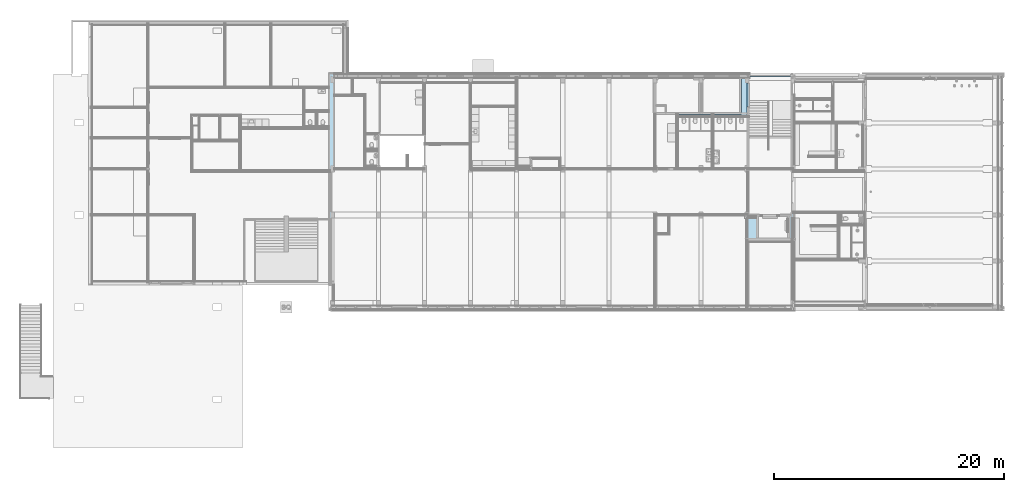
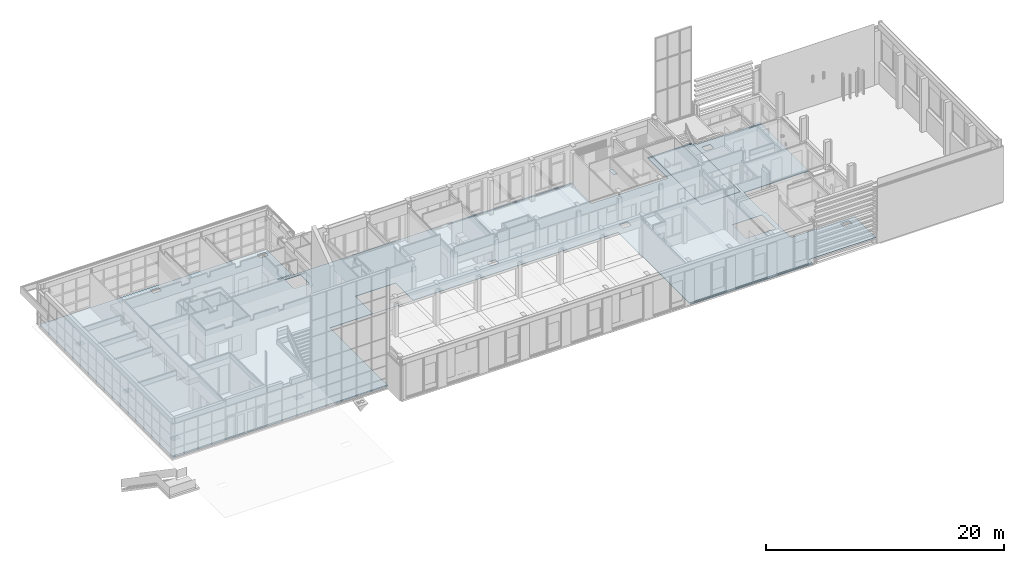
# One storey, part 15 of 109: 2 slabs, 9 openings.
"""IFC2X3 building model written with IfcOpenShell, lengths in millimetres."""

from ifc_helpers import new_model, entity, si_unit, converted_unit, derived_unit, money_unit, direction, frame, origin_with_axes, place, context, subcontext, project, spatial, faceted_brep, material, type_object, element, save


model = new_model("IFC2X3")

# Units and contexts
model_context = context("Model", 3, precision=0.01, world=origin_with_axes(), true_north=direction((0.0, 1.0)))
body_context = subcontext(model_context, "Body", "Model", "MODEL_VIEW")
ifc_project = project(units=[si_unit("LENGTHUNIT", "METRE", prefix="MILLI"), si_unit("AREAUNIT", "SQUARE_METRE"), si_unit("VOLUMEUNIT", "CUBIC_METRE"), converted_unit("PLANEANGLEUNIT", "DEGREE", entity("IfcPlaneAngleMeasure", 0.0174532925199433), si_unit("PLANEANGLEUNIT", "RADIAN"), dimensions=[0, 0, 0, 0, 0, 0, 0]), money_unit("EUR"), converted_unit("TIMEUNIT", "Year", entity("IfcTimeMeasure", 31557600.0), si_unit("TIMEUNIT", "SECOND"), dimensions=[0, 0, 1, 0, 0, 0, 0]), si_unit("MASSUNIT", "GRAM", prefix="KILO"), si_unit("THERMODYNAMICTEMPERATUREUNIT", "DEGREE_CELSIUS"), si_unit("LUMINOUSINTENSITYUNIT", "LUMEN"), si_unit("ENERGYUNIT", "JOULE", prefix="MEGA"), derived_unit("THERMALCONDUCTANCEUNIT", [(si_unit("POWERUNIT", "WATT"), 1), (si_unit("LENGTHUNIT", "METRE"), -1), (si_unit("THERMODYNAMICTEMPERATUREUNIT", "KELVIN"), -1)]), derived_unit("SPECIFICHEATCAPACITYUNIT", [(si_unit("ENERGYUNIT", "JOULE"), 1), (si_unit("MASSUNIT", "GRAM", prefix="KILO"), -1), (si_unit("THERMODYNAMICTEMPERATUREUNIT", "KELVIN"), -1)]), derived_unit("MASSDENSITYUNIT", [(si_unit("MASSUNIT", "GRAM", prefix="KILO"), 1), (si_unit("VOLUMEUNIT", "CUBIC_METRE"), -1)])], contexts=[model_context])

# Site, building, storey
site_placement = place(None, origin_with_axes())
site = spatial("IfcSite", under=ifc_project, at=site_placement, Name="<site naam>", CompositionType="ELEMENT")
building_placement = place(site_placement, origin_with_axes())
building = spatial("IfcBuilding", under=site, at=building_placement, Name="<Naam gebouw>", CompositionType="ELEMENT")
storey_placement = place(building_placement, origin_with_axes())
storey = spatial("IfcBuildingStorey", under=building, at=storey_placement, Name="00 Begane grond", CompositionType="ELEMENT", Elevation=0.0)

# Slab
ifc_material_1 = material(Name="beton")
slab_type_1 = type_object("IfcSlabType", Name="beton 30", PredefinedType="NOTDEFINED")
slab_1_placement = place(storey_placement, frame((48000.00000000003, 11961.00000002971, -30.0), z_axis=(0.0, 0.0, 1.0), x_axis=(1.0, 0.0, 0.0)))
element("IfcSlab", 1, at=slab_1_placement, inside=storey, type_object=slab_type_1, material=ifc_material_1, Name="23_Vloer_beton", PredefinedType="NOTDEFINED", context=body_context, shape_type="Brep", body=[
    faceted_brep([(3825.000000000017, 0.0, 30.0), (0.0, 0.0, 30.0), (0.0, 0.0, 0.0), (3825.000000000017, 0.0, 0.0), (3825.000000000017, 8103.999999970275, 30.0), (0.0, 8103.999999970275, 30.0), (0.0, 8103.999999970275, 0.0), (3825.000000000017, 8103.999999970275, 0.0)], [[[0, 1, 2, 3]], [[4, 5, 1, 0]], [[1, 5, 6, 2]], [[7, 3, 2, 6]], [[4, 0, 3, 7]], [[5, 4, 7, 6]]]),
])

# Slab, openings
ifc_material_2 = material(Name="zandcementdeklvoer")
slab_type_2 = type_object("IfcSlabType", Name="zandcementdeklvoer 50", PredefinedType="NOTDEFINED")
slab_2_placement = place(storey_placement, frame((-8976.46338968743, 2104.204757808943, 0.0), z_axis=(0.0, 0.0, 1.0), x_axis=(1.0, 0.0, 0.0)))
slab_2 = element("IfcSlab", 2, at=slab_2_placement, inside=storey, type_object=slab_type_2, material=ifc_material_2, Name="23_Vloer_zandcementdeklvoer", PredefinedType="NOTDEFINED", context=body_context, shape_type="Brep", body=[
    faceted_brep([(60801.46338968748, 18030.79524219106, -49.99999999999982), (53276.46338968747, 18030.79524219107, -49.99999999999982), (53276.46338968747, 17780.79524219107, -49.99999999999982), (53276.46338968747, 17295.79524219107, -49.99999999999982), (52676.46338968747, 17295.79524219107, -49.99999999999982), (52676.46338968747, 18030.79524219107, -49.99999999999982), (37151.46338968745, 18030.79524219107, -49.99999999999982), (37151.46338968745, 17945.79524219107, -49.99999999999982), (49276.46338968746, 17945.79524219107, -49.99999999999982), (49276.46338968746, 17295.79532653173, -49.99999999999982), (49151.46338968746, 17295.79532653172, -49.99999999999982), (49151.46338968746, 14870.74506497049, -49.99999999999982), (49151.46338968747, 14620.74510511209, -49.99999999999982), (56239.3477788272, 14620.74510374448, -49.99999999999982), (56489.3477788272, 14620.74510511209, -49.99999999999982), (56489.3477788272, 17945.79524219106, -49.99999999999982), (60801.46338968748, 17945.79524219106, -49.99999999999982), (60801.46338968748, 17895.80180449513, -49.99999999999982), (66091.46338968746, 17895.80180449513, -49.99999999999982), (66091.46338968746, 17630.79524219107, -49.99999999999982), (66091.46338968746, 17545.79524219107, -49.99999999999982), (67294.24623439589, 17545.79524219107, -49.99999999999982), (67294.24623439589, 9620.801804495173, -49.99999999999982), (60955.46338968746, 9620.801804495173, -49.99999999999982), (60955.46338968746, 6170.80180449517, -49.99999999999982), (61151.46338968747, 6170.80180449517, -49.99999999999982), (61151.46338968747, 5620.801804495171, -49.99999999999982), (61111.46338968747, 5620.801804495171, -49.99999999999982), (61111.46338968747, 1920.795242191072, -49.99999999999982), (67294.24623439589, 1920.795242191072, -49.99999999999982), (67294.24623439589, 1720.801804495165, -49.99999999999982), (67301.46338968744, 1720.801804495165, -49.99999999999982), (67301.46338968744, -1626.204757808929, -49.99999999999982), (60841.46338968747, -1626.204757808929, -49.99999999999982), (60841.46338968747, -2129.267312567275, -49.99999999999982), (48901.46338968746, -2133.799300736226, -49.99999999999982), (48901.46338968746, 9820.769999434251, -49.99999999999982), (20911.46338968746, 9820.769999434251, -49.99999999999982), (20911.46338968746, 155.7952421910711, -49.99999999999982), (0.0, 155.7952421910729, -49.99999999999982), (0.0, 22479.79436877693, -49.99999999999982), (22032.98553481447, 22479.79436899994, -49.99999999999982), (22032.98554914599, 18230.80180449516, -49.99999999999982), (20641.46338968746, 18230.80180449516, -49.99999999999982), (20641.46338968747, 18120.80180449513, -49.99999999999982), (60801.46338968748, 18120.80180449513, -49.99999999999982), (28976.44763511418, 9826.166431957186, -49.99999999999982), (28976.44764154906, 12760.82479693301, -49.99999999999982), (25071.46338968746, 12761.33731080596, -49.99999999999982), (25071.46338968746, 9826.166431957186, -49.99999999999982), (60676.46338968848, 6000.795240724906, -49.99999999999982), (60476.46338968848, 6000.795240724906, -49.99999999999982), (57776.46338968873, 6000.795240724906, -49.99999999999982), (57776.46338968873, 5800.795240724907, -49.99999999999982), (57776.46338968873, 3900.795240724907, -49.99999999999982), (57776.46338968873, 3700.795240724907, -49.99999999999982), (60676.46338968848, 3700.795240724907, -49.99999999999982), (60676.46338968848, 3900.795240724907, -49.99999999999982), (20951.46338968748, 22145.79524219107, -49.99999999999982), (20951.46338968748, 21645.79524219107, -49.99999999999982), (21701.46338968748, 21645.79524219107, -49.99999999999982), (21701.46338968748, 22145.79524219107, -49.99999999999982), (10601.46338968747, 22145.79524219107, -49.99999999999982), (10601.46338968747, 21645.79524219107, -49.99999999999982), (11351.46338968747, 21645.79524219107, -49.99999999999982), (11351.46338968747, 22145.79524219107, -49.99999999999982), (60801.46338968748, 18030.79524219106, 0.0), (53276.46338968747, 18030.79524219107, 0.0), (53276.46338968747, 17780.79524219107, 0.0), (53276.46338968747, 17295.79524219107, 0.0), (52676.46338968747, 17295.79524219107, 0.0), (52676.46338968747, 18030.79524219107, 0.0), (49526.46338968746, 18030.79524219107, 0.0), (49276.46338968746, 18030.79524219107, 0.0), (37151.46338968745, 18030.79524219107, 0.0), (52426.46338968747, 18030.79524219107, 0.0), (37151.46338968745, 17945.79524219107, 0.0), (49276.46338968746, 17945.79524219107, 0.0), (49276.46338968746, 17295.79532653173, 0.0), (49151.46338968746, 17295.79532653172, 0.0), (49151.46338968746, 14870.74506497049, 0.0), (49151.46338968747, 14620.74510511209, 0.0), (56239.3477788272, 14620.74510374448, 0.0), (56489.3477788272, 14620.74510511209, 0.0), (56489.3477788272, 17945.79524219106, 0.0), (60801.46338968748, 17945.79524219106, 0.0), (60801.46338968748, 17895.80180449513, 0.0), (66091.46338968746, 17895.80180449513, 0.0), (66091.46338968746, 17630.79524219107, 0.0), (66091.46338968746, 17545.79524219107, 0.0), (67294.24623439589, 17545.79524219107, 0.0), (67294.24623439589, 9620.801804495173, 0.0), (60955.46338968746, 9620.801804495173, 0.0), (60955.46338968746, 6170.80180449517, 0.0), (61151.46338968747, 6170.80180449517, 0.0), (61151.46338968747, 5620.801804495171, 0.0), (61111.46338968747, 5620.801804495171, 0.0), (61111.46338968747, 1920.795242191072, 0.0), (67294.24623439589, 1920.795242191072, 0.0), (67294.24623439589, 1720.801804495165, 0.0), (67301.46338968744, 1720.801804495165, 0.0), (67301.46338968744, -1626.204757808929, 0.0), (60841.46338968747, -1626.204757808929, 0.0), (60841.46338968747, -2129.267312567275, 0.0), (48901.46338968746, -2133.799300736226, 0.0), (48901.46338968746, 9820.769999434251, 0.0), (20911.46338968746, 9820.769999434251, 0.0), (20911.46338968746, 155.7952421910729, 0.0), (0.0, 155.7952421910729, 0.0), (0.0, 22479.79436877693, 0.0), (22032.98553481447, 22479.79436899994, 0.0), (22032.98554914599, 18230.80180449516, 0.0), (20641.46338968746, 18230.80180449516, 0.0), (20641.46338968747, 18120.80180449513, 0.0), (60801.46338968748, 18120.80180449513, 0.0), (28976.44763511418, 9826.166431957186, 0.0), (28976.44764154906, 12760.82479693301, 0.0), (25071.46338968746, 12761.33731080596, 0.0), (25071.46338968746, 9826.166431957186, 0.0), (60676.46338968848, 6000.795240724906, 0.0), (60476.46338968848, 6000.795240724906, 0.0), (57776.46338968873, 6000.795240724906, 0.0), (57776.46338968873, 5800.795240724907, 0.0), (57776.46338968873, 3900.795240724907, 0.0), (57776.46338968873, 3700.795240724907, 0.0), (60676.46338968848, 3700.795240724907, 0.0), (60676.46338968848, 3900.795240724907, 0.0), (20951.46338968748, 22145.79524219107, 0.0), (20951.46338968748, 21645.79524219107, 0.0), (21701.46338968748, 21645.79524219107, 0.0), (21701.46338968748, 22145.79524219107, 0.0), (10601.46338968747, 22145.79524219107, 0.0), (10601.46338968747, 21645.79524219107, 0.0), (11351.46338968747, 21645.79524219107, 0.0), (11351.46338968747, 22145.79524219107, 0.0)], [[[0, 1, 2, 3, 4, 5, 6, 7, 8, 9, 10, 11, 12, 13, 14, 15, 16, 17, 18, 19, 20, 21, 22, 23, 24, 25, 26, 27, 28, 29, 30, 31, 32, 33, 34, 35, 36, 37, 38, 39, 40, 41, 42, 43, 44, 45], [46, 47, 48, 49], [50, 51, 52, 53, 54, 55, 56, 57], [58, 59, 60, 61], [62, 63, 64, 65]], [[1, 0, 66, 67]], [[2, 1, 67, 68]], [[3, 2, 68, 69]], [[69, 70, 4, 3]], [[70, 71, 5, 4]], [[72, 73, 74, 6, 5, 71, 75]], [[76, 7, 6, 74]], [[8, 7, 76, 77]], [[77, 78, 9, 8]], [[78, 79, 10, 9]], [[79, 80, 11, 10]], [[80, 81, 12, 11]], [[82, 13, 12, 81]], [[82, 83, 14, 13]], [[15, 14, 83, 84]], [[84, 85, 16, 15]], [[85, 86, 17, 16]], [[18, 17, 86, 87]], [[87, 88, 19, 18]], [[88, 89, 20, 19]], [[90, 21, 20, 89]], [[90, 91, 22, 21]], [[23, 22, 91, 92]], [[24, 23, 92, 93]], [[25, 24, 93, 94]], [[26, 25, 94, 95]], [[27, 26, 95, 96]], [[28, 27, 96, 97]], [[29, 28, 97, 98]], [[30, 29, 98, 99]], [[31, 30, 99, 100]], [[32, 31, 100, 101]], [[33, 32, 101, 102]], [[34, 33, 102, 103]], [[103, 104, 35, 34]], [[104, 105, 36, 35]], [[37, 36, 105, 106]], [[38, 37, 106, 107]], [[107, 108, 39, 38]], [[108, 109, 40, 39]], [[41, 40, 109, 110]], [[42, 41, 110, 111]], [[43, 42, 111, 112]], [[44, 43, 112, 113]], [[45, 44, 113, 114]], [[0, 45, 114, 66]], [[47, 46, 115, 116]], [[48, 47, 116, 117]], [[49, 48, 117, 118]], [[46, 49, 118, 115]], [[51, 50, 119, 120]], [[120, 121, 52, 51]], [[53, 52, 121, 122]], [[122, 123, 54, 53]], [[123, 124, 55, 54]], [[125, 56, 55, 124]], [[57, 56, 125, 126]], [[119, 50, 57, 126]], [[58, 127, 128, 59]], [[59, 128, 129, 60]], [[60, 129, 130, 61]], [[61, 130, 127, 58]], [[62, 131, 132, 63]], [[63, 132, 133, 64]], [[64, 133, 134, 65]], [[65, 134, 131, 62]], [[72, 75, 71, 70, 69, 68, 67, 66, 114, 113, 112, 111, 110, 109, 108, 107, 106, 105, 104, 103, 102, 101, 100, 99, 98, 97, 96, 95, 94, 93, 92, 91, 90, 89, 88, 87, 86, 85, 84, 83, 82, 81, 80, 79, 78, 77, 76, 74, 73], [115, 118, 117, 116], [126, 125, 124, 123, 122, 121, 120, 119], [129, 128, 127, 130], [133, 132, 131, 134]]]),
    faceted_brep([(60251.46231436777, -2214.491261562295, 0.0), (60251.46231436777, -2214.491261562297, -9.999999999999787), (60252.46231436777, -2214.4908819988, -9.999999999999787), (60252.46231436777, -2214.490881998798, 0.0), (60841.46338968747, -2214.267318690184, 0.0), (60841.46338968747, -2214.267318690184, -49.99999999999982), (48901.46338968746, -2218.799306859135, -49.99999999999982), (48901.46338968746, -2218.799306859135, 0.0), (49130.46338507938, -2218.712386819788, 0.0), (49130.46338507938, -2218.71238681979, -9.999999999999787), (49131.46338507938, -2218.712007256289, -9.999999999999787), (49131.46338507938, -2218.712007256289, 0.0), (52251.46231436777, -2217.527769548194, 0.0), (52251.46231436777, -2217.527769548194, -9.999999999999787), (52252.46231436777, -2217.527389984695, -9.999999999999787), (52252.46231436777, -2217.527389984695, 0.0), (53130.46338507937, -2217.194132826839, 0.0), (53130.46338507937, -2217.194132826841, -9.999999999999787), (53131.46338507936, -2217.193753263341, -9.999999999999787), (53131.46338507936, -2217.193753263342, 0.0), (56251.46231436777, -2216.009515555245, 0.0), (56251.46231436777, -2216.009515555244, -9.999999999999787), (56252.46231436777, -2216.009135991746, -9.999999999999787), (56252.46231436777, -2216.009135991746, 0.0), (57130.46338507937, -2215.675878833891, 0.0), (57130.46338507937, -2215.675878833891, -9.999999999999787), (57131.46338507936, -2215.675499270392, -9.999999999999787), (57131.46338507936, -2215.675499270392, 0.0), (60251.46231436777, -2329.198195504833, -9.999999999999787), (60251.46231436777, -2329.198195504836, 0.0), (60252.46231436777, -2329.198195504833, -9.999999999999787), (60252.46231436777, -2329.198195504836, 0.0), (60841.46338968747, -2329.198195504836, 0.0), (60841.46338968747, -2329.198195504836, -49.99999999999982), (48901.46338968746, -2329.198195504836, -49.99999999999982), (48901.46338968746, -2329.198195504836, 0.0), (49130.46338507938, -2329.198195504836, 0.0), (49130.46338507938, -2329.198195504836, -9.999999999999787), (49131.46338507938, -2329.198195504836, -9.999999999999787), (49131.46338507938, -2329.198195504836, 0.0), (52251.46231436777, -2329.198195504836, 0.0), (52251.46231436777, -2329.198195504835, -9.999999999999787), (52252.46231436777, -2329.198195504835, -9.999999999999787), (52252.46231436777, -2329.198195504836, 0.0), (53130.46338507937, -2329.198195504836, 0.0), (53130.46338507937, -2329.198195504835, -9.999999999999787), (53131.46338507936, -2329.198195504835, -9.999999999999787), (53131.46338507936, -2329.198195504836, 0.0), (56251.46231436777, -2329.198195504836, 0.0), (56251.46231436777, -2329.198195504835, -9.999999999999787), (56252.46231436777, -2329.198195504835, -9.999999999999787), (56252.46231436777, -2329.198195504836, 0.0), (57130.46338507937, -2329.198195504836, 0.0), (57130.46338507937, -2329.198195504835, -9.999999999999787), (57131.46338507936, -2329.198195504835, -9.999999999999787), (57131.46338507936, -2329.198195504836, 0.0)], [[[0, 1, 2, 3, 4, 5, 6, 7, 8, 9, 10, 11, 12, 13, 14, 15, 16, 17, 18, 19, 20, 21, 22, 23, 24, 25, 26, 27]], [[28, 1, 0, 29]], [[30, 2, 1, 28]], [[30, 31, 3, 2]], [[4, 3, 31, 32]], [[32, 33, 5, 4]], [[33, 34, 6, 5]], [[34, 35, 7, 6]], [[35, 36, 8, 7]], [[37, 9, 8, 36]], [[38, 10, 9, 37]], [[38, 39, 11, 10]], [[39, 40, 12, 11]], [[41, 13, 12, 40]], [[42, 14, 13, 41]], [[42, 43, 15, 14]], [[43, 44, 16, 15]], [[45, 17, 16, 44]], [[46, 18, 17, 45]], [[46, 47, 19, 18]], [[20, 19, 47, 48]], [[49, 21, 20, 48]], [[50, 22, 21, 49]], [[50, 51, 23, 22]], [[51, 52, 24, 23]], [[53, 25, 24, 52]], [[54, 26, 25, 53]], [[54, 55, 27, 26]], [[55, 29, 0, 27]], [[30, 28, 29, 55, 54, 53, 52, 51, 50, 49, 48, 47, 46, 45, 44, 43, 42, 41, 40, 39, 38, 37, 36, 35, 34, 33, 32, 31]]]),
    faceted_brep([(20911.46338968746, 49.29032117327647, 0.0), (20911.46338968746, 49.29032117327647, -49.99999999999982), (20911.46338968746, 70.79524219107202, -49.99999999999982), (20911.46338968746, 70.79524219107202, 0.0), (10430.51141525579, 49.29032117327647, 0.0), (10430.51141525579, 49.29032117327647, -49.99999999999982), (10430.51141525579, 0.0, -49.99999999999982), (0.0, 0.0, -49.99999999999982), (0.0, 70.79524219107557, -49.99999999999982), (0.0, 70.79524219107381, 0.0), (0.0, 0.0, 0.0), (10430.51141525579, 0.0, 0.0)], [[[0, 1, 2, 3]], [[1, 0, 4, 5]], [[6, 7, 8, 2, 1, 5]], [[2, 8, 9, 3]], [[4, 0, 3, 9, 10, 11]], [[5, 4, 11, 6]], [[6, 11, 10, 7]], [[7, 10, 9, 8]]]),
    faceted_brep([(52526.46338968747, 16680.75519617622, 0.0), (52901.46338968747, 16680.75519617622, 0.0), (52901.46338968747, 16580.75519617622, 0.0), (52526.46338968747, 16580.75519617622, 0.0), (52426.46338968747, 16580.75519617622, 0.0), (52426.46338968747, 17780.79524219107, 0.0), (49526.46338968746, 17780.79524219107, 0.0), (49526.46338968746, 17045.79532653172, 0.0), (49401.46338968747, 17045.79532653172, 0.0), (49401.46338968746, 14870.74506633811, 0.0), (56239.3477788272, 14870.74510511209, 0.0), (56239.3477788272, 17780.79524219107, 0.0), (53526.46338968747, 17780.79524219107, 0.0), (53526.46338968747, 17045.79524219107, 0.0), (53276.46338968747, 17045.79524219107, 0.0), (52676.46338968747, 17045.79524219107, 0.0), (52526.46338968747, 17045.79524219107, 0.0), (52526.46338968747, 16680.75519617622, -49.99999999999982), (52901.46338968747, 16680.75519617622, -49.99999999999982), (52901.46338968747, 16580.75519617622, -49.99999999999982), (52526.46338968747, 16580.75519617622, -49.99999999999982), (52426.46338968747, 16580.75519617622, -49.99999999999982), (52426.46338968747, 17780.79524219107, -49.99999999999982), (49526.46338968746, 17780.79524219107, -49.99999999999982), (49526.46338968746, 17045.79532653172, -49.99999999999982), (49401.46338968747, 17045.79532653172, -49.99999999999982), (49401.46338968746, 14870.74506633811, -49.99999999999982), (56239.3477788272, 14870.74510511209, -49.99999999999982), (56239.3477788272, 17780.79524219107, -49.99999999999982), (53526.46338968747, 17780.79524219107, -50.00000000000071), (53526.46338968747, 17045.79524219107, -49.99999999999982), (53276.46338968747, 17045.79524219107, -49.99999999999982), (52676.46338968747, 17045.79524219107, -49.99999999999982), (52526.46338968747, 17045.79524219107, -49.99999999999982)], [[[0, 1, 2, 3, 4, 5, 6, 7, 8, 9, 10, 11, 12, 13, 14, 15, 16]], [[17, 18, 1, 0]], [[18, 19, 2, 1]], [[19, 20, 3, 2]], [[21, 4, 3, 20]], [[22, 5, 4, 21]], [[22, 23, 6, 5]], [[24, 7, 6, 23]], [[25, 8, 7, 24]], [[26, 9, 8, 25]], [[27, 10, 9, 26]], [[10, 27, 28, 11]], [[11, 28, 29, 12]], [[29, 30, 13, 12]], [[13, 30, 31, 14]], [[31, 32, 15, 14]], [[15, 32, 33, 16]], [[16, 33, 17, 0]], [[20, 19, 18, 17, 33, 32, 31, 30, 29, 28, 27, 26, 25, 24, 23, 22, 21]]]),
    faceted_brep([(60476.46338968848, 5800.795240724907, 0.0), (60476.46338968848, 5800.795240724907, -49.99999999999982), (57976.46338968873, 5800.795240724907, -49.99999999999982), (57976.46338968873, 5800.795240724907, 0.0), (60476.46338968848, 3900.795240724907, 0.0), (60476.46338968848, 3900.795240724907, -49.99999999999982), (57976.46338968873, 3900.795240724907, -49.99999999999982), (57976.46338968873, 3900.795240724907, 0.0)], [[[0, 1, 2, 3]], [[4, 5, 1, 0]], [[1, 5, 6, 2]], [[2, 6, 7, 3]], [[4, 0, 3, 7]], [[5, 4, 7, 6]]]),
    faceted_brep([(67294.24623439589, 17895.80180449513, -50.00000000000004), (66176.46338968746, 17895.80180449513, -50.00000000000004), (66176.46338968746, 17895.80180449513, 0.0), (67294.24623439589, 17895.80180449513, 0.0), (67294.24623439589, 17630.79524219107, -50.00000000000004), (66176.46338968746, 17630.79524219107, -50.00000000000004), (66176.46338968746, 17630.79524219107, 0.0), (67294.24623439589, 17630.79524219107, 0.0)], [[[0, 1, 2, 3]], [[4, 5, 1, 0]], [[5, 6, 2, 1]], [[3, 2, 6, 7]], [[3, 7, 4, 0]], [[7, 6, 5, 4]]]),
])
opening_1_placement = place(slab_2_placement, frame((8976.46338968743, -2104.204757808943, 0.0), z_axis=(0.0, 0.0, 1.0), x_axis=(1.0, 0.0, 0.0)))
element("IfcOpeningElement", 3, at=opening_1_placement, cuts=slab_2, Name="23_Opening_", context=body_context, shape_type="Brep", body=[
    faceted_brep([(12175.00000000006, 18423.10258491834, 50.00000000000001), (12175.00000000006, 19923.10258491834, 50.00000000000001), (12175.00000000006, 19923.10258491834, -100.0), (12175.00000000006, 18423.10258491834, -100.0), (13675.00000000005, 18423.10258491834, 50.00000000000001), (13675.00000000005, 19923.10258491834, 50.00000000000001), (13675.00000000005, 19923.10258491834, -100.0), (13675.00000000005, 18423.10258491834, -100.0)], [[[0, 1, 2, 3]], [[0, 4, 5, 1]], [[1, 5, 6, 2]], [[3, 2, 6, 7]], [[4, 0, 3, 7]], [[5, 4, 7, 6]]]),
])
opening_2_placement = place(slab_2_placement, frame((8976.46338968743, -2104.204757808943, 0.0), z_axis=(0.0, 0.0, 1.0), x_axis=(1.0, 0.0, 0.0)))
element("IfcOpeningElement", 4, at=opening_2_placement, cuts=slab_2, Name="23_Opening_", context=body_context, shape_type="Brep", body=[
    faceted_brep([(49000.00000000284, 6005.006560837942, 50.00000000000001), (49000.00000000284, 7905.006560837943, 50.00000000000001), (49000.00000000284, 7905.006560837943, -100.0), (49000.00000000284, 6005.006560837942, -100.0), (51500.00000000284, 6005.006560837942, 50.00000000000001), (51500.00000000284, 7905.006560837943, 50.00000000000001), (51500.00000000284, 7905.006560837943, -100.0), (51500.00000000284, 6005.006560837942, -100.0)], [[[0, 1, 2, 3]], [[0, 4, 5, 1]], [[1, 5, 6, 2]], [[3, 2, 6, 7]], [[4, 0, 3, 7]], [[5, 4, 7, 6]]]),
])
opening_3_placement = place(slab_2_placement, frame((8976.46338968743, -2104.204757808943, 0.0), z_axis=(0.0, 0.0, 1.0), x_axis=(1.0, 0.0, 0.0)))
element("IfcOpeningElement", 5, at=opening_3_placement, cuts=slab_2, Name="23_Opening_", context=body_context, shape_type="Brep", body=[
    faceted_brep([(52175.00007309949, 0.006562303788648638, 0.0), (52175.00007309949, 185.9171266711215, 0.0), (52175.00007309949, 185.9171266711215, -149.9999999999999), (52175.00007309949, 0.006562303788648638, -149.9999999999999), (57675.00000000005, 0.006562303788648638, 0.0), (57675.00000000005, 185.9171266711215, 0.0), (57675.00000000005, 185.9171266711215, -149.9999999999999), (57675.00000000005, 0.006562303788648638, -149.9999999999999)], [[[0, 1, 2, 3]], [[0, 4, 5, 1]], [[1, 5, 6, 2]], [[3, 2, 6, 7]], [[4, 0, 3, 7]], [[5, 4, 7, 6]]]),
])
opening_4_placement = place(slab_2_placement, frame((8976.46338968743, -2104.204757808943, 0.0), z_axis=(0.0, 0.0, 1.0), x_axis=(1.0, 0.0, 0.0)))
element("IfcOpeningElement", 6, at=opening_4_placement, cuts=slab_2, Name="23_Opening_", context=body_context, shape_type="Brep", body=[
    faceted_brep([(52175.00000000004, 19825.00664098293, 0.0), (52175.00000000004, 20000.00656230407, 0.0), (52175.00000000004, 20000.00656230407, -149.9999999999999), (52175.00000000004, 19825.00664098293, -149.9999999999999), (57674.9999269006, 19825.00664098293, 0.0), (57674.9999269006, 20000.00656230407, 0.0), (57674.9999269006, 20000.00656230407, -149.9999999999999), (57674.9999269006, 19825.00664098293, -149.9999999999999)], [[[0, 1, 2, 3]], [[0, 4, 5, 1]], [[1, 5, 6, 2]], [[3, 2, 6, 7]], [[4, 0, 3, 7]], [[5, 4, 7, 6]]]),
])
opening_5_placement = place(slab_2_placement, frame((8976.46338968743, -2104.204757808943, 0.0), z_axis=(0.0, 0.0, 1.0), x_axis=(1.0, 0.0, 0.0)))
element("IfcOpeningElement", 7, at=opening_5_placement, cuts=slab_2, Name="23_Opening_", context=body_context, shape_type="Brep", body=[
    faceted_brep([(40075.00000000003, 19450.00657932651, 50.00000000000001), (40175.00000000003, 19450.00657932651, 50.00000000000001), (40175.00000000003, 19450.00657932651, -100.0), (40075.00000000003, 19450.00657932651, -100.0), (40075.00000000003, 16724.95642469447, 50.00000000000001), (47512.88438913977, 16724.95642469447, 50.00000000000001), (47512.88438913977, 20225.00656230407, 50.00000000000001), (44174.99995291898, 20225.00656230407, 50.00000000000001), (44174.99995291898, 19450.00656230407, 50.00000000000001), (43825.00000000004, 19450.00656230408, 50.00000000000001), (43825.00000000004, 20225.00656230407, 50.00000000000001), (40175.00000000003, 20225.00656230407, 50.00000000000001), (40175.00000000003, 20225.00656230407, -100.0), (43825.00000000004, 20225.00656230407, -100.0), (43825.00000000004, 19450.00656230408, -100.0), (44174.99995291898, 19450.00656230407, -100.0), (44174.99995291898, 20225.00656230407, -100.0), (47512.88438913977, 20225.00656230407, -100.0), (47512.88438913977, 16724.95642469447, -100.0), (40075.00000000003, 16724.95642469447, -100.0)], [[[0, 1, 2, 3]], [[0, 4, 5, 6, 7, 8, 9, 10, 11, 1]], [[1, 11, 12, 2]], [[3, 2, 12, 13, 14, 15, 16, 17, 18, 19]], [[4, 0, 3, 19]], [[5, 4, 19, 18]], [[6, 5, 18, 17]], [[7, 6, 17, 16]], [[8, 7, 16, 15]], [[9, 8, 15, 14]], [[10, 9, 14, 13]], [[11, 10, 13, 12]]]),
])
opening_6_placement = place(slab_2_placement, frame((8976.46338968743, -2104.204757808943, 0.0), z_axis=(0.0, 0.0, 1.0), x_axis=(1.0, 0.0, 0.0)))
element("IfcOpeningElement", 8, at=opening_6_placement, cuts=slab_2, Name="23_vloerluik_", context=body_context, shape_type="Brep", body=[
    faceted_brep([(53075.00000000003, 18634.00656230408, 50.00000000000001), (52275.00000000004, 18634.00656230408, 50.00000000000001), (52275.00000000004, 18634.00656230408, -100.0), (53075.00000000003, 18634.00656230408, -100.0), (53075.00000000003, 19234.00656230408, 50.00000000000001), (52275.00000000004, 19234.00656230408, 50.00000000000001), (52275.00000000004, 19234.00656230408, -100.0), (53075.00000000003, 19234.00656230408, -100.0)], [[[0, 1, 2, 3]], [[0, 4, 5, 1]], [[1, 5, 6, 2]], [[3, 2, 6, 7]], [[4, 0, 3, 7]], [[5, 4, 7, 6]]]),
])
opening_7_placement = place(slab_2_placement, frame((8976.46338968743, -2104.204757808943, 0.0), z_axis=(0.0, 0.0, 1.0), x_axis=(1.0, 0.0, 0.0)))
element("IfcOpeningElement", 9, at=opening_7_placement, cuts=slab_2, Name="23_vloerluik_", context=body_context, shape_type="Brep", body=[
    faceted_brep([(28175.00000000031, 13069.24969002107, 50.00000000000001), (28175.00000000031, 13629.24969002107, 50.00000000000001), (28175.00000000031, 13629.24969002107, -100.0), (28175.00000000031, 13069.24969002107, -100.0), (28975.00000000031, 13069.24969002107, 50.00000000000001), (28975.00000000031, 13629.24969002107, 50.00000000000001), (28975.00000000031, 13629.24969002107, -100.0), (28975.00000000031, 13069.24969002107, -100.0)], [[[0, 1, 2, 3]], [[0, 4, 5, 1]], [[1, 5, 6, 2]], [[3, 2, 6, 7]], [[4, 0, 3, 7]], [[5, 4, 7, 6]]]),
])
opening_8_placement = place(slab_2_placement, frame((8976.46338968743, -2104.204757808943, 0.0), z_axis=(0.0, 0.0, 1.0), x_axis=(1.0, 0.0, 0.0)))
element("IfcOpeningElement", 10, at=opening_8_placement, cuts=slab_2, Name="23_vloerluik_", context=body_context, shape_type="Brep", body=[
    faceted_brep([(56775.00000000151, 3125.006562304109, 50.00000000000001), (56775.00000000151, 3725.006562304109, 50.00000000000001), (56775.00000000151, 3725.006562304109, -100.0), (56775.00000000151, 3125.006562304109, -100.0), (57575.00000000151, 3125.006562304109, 50.00000000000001), (57575.00000000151, 3725.006562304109, 50.00000000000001), (57575.00000000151, 3725.006562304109, -100.0), (57575.00000000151, 3125.006562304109, -100.0)], [[[0, 1, 2, 3]], [[0, 4, 5, 1]], [[1, 5, 6, 2]], [[3, 2, 6, 7]], [[4, 0, 3, 7]], [[5, 4, 7, 6]]]),
])
opening_9_placement = place(slab_2_placement, frame((8976.46338968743, -2104.204757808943, 0.0), z_axis=(0.0, 0.0, 1.0), x_axis=(1.0, 0.0, 0.0)))
element("IfcOpeningElement", 11, at=opening_9_placement, cuts=slab_2, Name="23_vloerluik_", context=body_context, shape_type="Brep", body=[
    faceted_brep([(40575.00000003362, 12275.00656230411, 50.00000000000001), (40575.00000003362, 12875.00656230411, 50.00000000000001), (40575.00000003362, 12875.00656230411, -100.0), (40575.00000003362, 12275.00656230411, -100.0), (41375.00000003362, 12275.00656230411, 50.00000000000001), (41375.00000003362, 12875.00656230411, 50.00000000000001), (41375.00000003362, 12875.00656230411, -100.0), (41375.00000003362, 12275.00656230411, -100.0)], [[[0, 1, 2, 3]], [[0, 4, 5, 1]], [[1, 5, 6, 2]], [[3, 2, 6, 7]], [[4, 0, 3, 7]], [[5, 4, 7, 6]]]),
])

save(model, "model.ifc")
